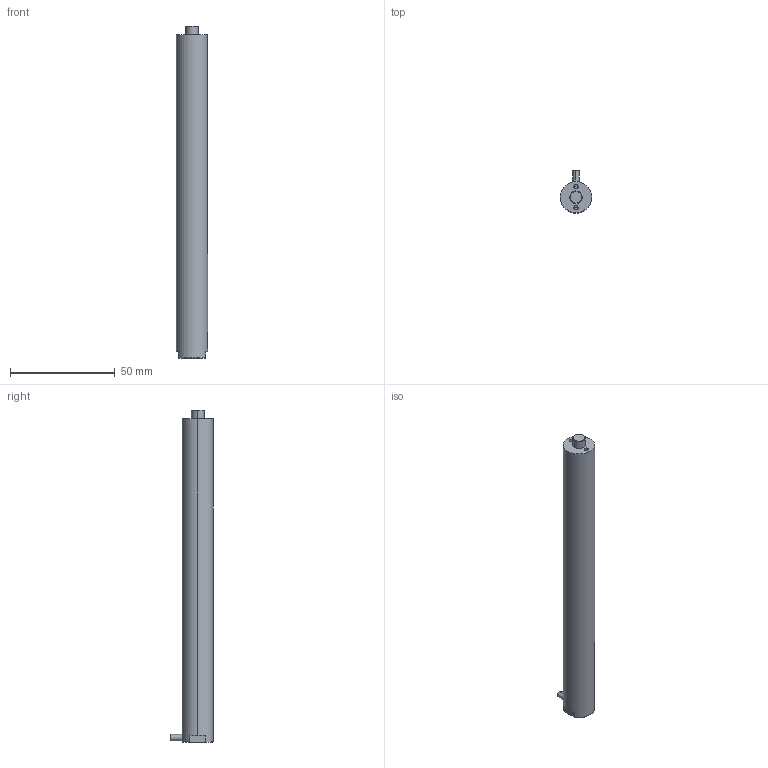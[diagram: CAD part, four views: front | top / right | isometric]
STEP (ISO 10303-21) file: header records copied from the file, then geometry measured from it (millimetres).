
FILE_DESCRIPTION (( 'STEP AP203' ), '1' );
FILE_NAME ('160VS15ƽͷ.STEP', '2024-11-30T07:43:43', ( 'daohangxitong.com' ), ( 'daohangxitong.com' ), 'SwSTEP 2.0', 'SolidWorks 2016', '' );
FILE_SCHEMA (( 'CONFIG_CONTROL_DESIGN' ));
Length unit declared in the file: millimetre
Products named in the file (1): 160VS15ƽͷ
Bounding box: 15 x 20.5 x 158.8 mm (x, y, z)
Volume: 27391.7 mm3; surface area: 7832.6 mm2
Topology: 1 solids, 1 shells, 697 faces, 1991 edges, 1321 vertices
Faces by surface type: bspline 610, cylinder 43, plane 32, cone 12
Entity records: 39940 total; most frequent: CARTESIAN_POINT 27184, ORIENTED_EDGE 3970, EDGE_CURVE 1985, B_SPLINE_CURVE_WITH_KNOTS 1869, VERTEX_POINT 1321, EDGE_LOOP 728, ADVANCED_FACE 697, FACE_OUTER_BOUND 697
